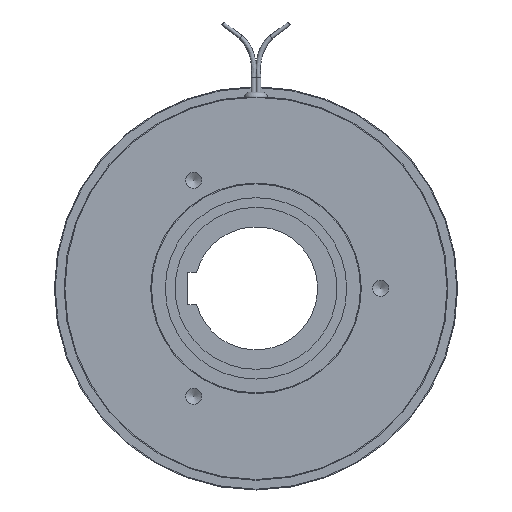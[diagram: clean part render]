
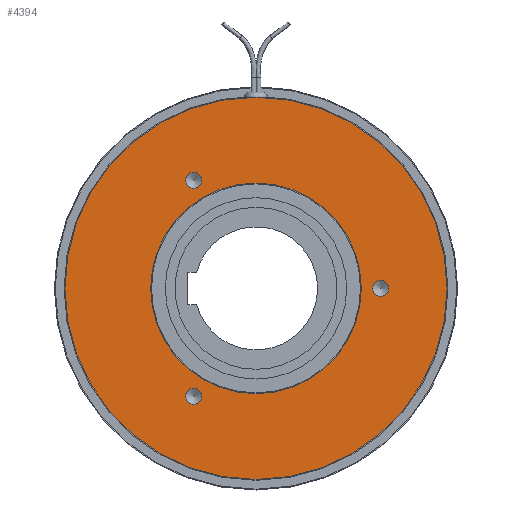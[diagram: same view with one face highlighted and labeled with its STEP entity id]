
A CAD part, left-side view. The second image highlights one B-rep face of the part: STEP entity #4394.
In plain terms, the highlighted planar face has unit normal (-1, 0, 0).
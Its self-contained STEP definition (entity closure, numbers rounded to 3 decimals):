
#235=FACE_BOUND('',#721,.T.);
#236=FACE_BOUND('',#722,.T.);
#237=FACE_BOUND('',#723,.T.);
#238=FACE_BOUND('',#724,.T.);
#300=PLANE('',#4846);
#442=FACE_OUTER_BOUND('',#720,.T.);
#720=EDGE_LOOP('',(#3426,#3427,#3428));
#721=EDGE_LOOP('',(#3429,#3430));
#722=EDGE_LOOP('',(#3431,#3432));
#723=EDGE_LOOP('',(#3433,#3434));
#724=EDGE_LOOP('',(#3435,#3436));
#1467=CIRCLE('',#4839,59.);
#1468=CIRCLE('',#4840,59.);
#1469=CIRCLE('',#4842,32.5);
#1472=CIRCLE('',#4845,32.5);
#1473=CIRCLE('',#4847,59.);
#1474=CIRCLE('',#4848,2.459);
#1475=CIRCLE('',#4849,2.459);
#1476=CIRCLE('',#4850,2.459);
#1477=CIRCLE('',#4851,2.459);
#1478=CIRCLE('',#4852,2.459);
#1479=CIRCLE('',#4853,2.459);
#1926=VERTEX_POINT('',#7535);
#1927=VERTEX_POINT('',#7537);
#1928=VERTEX_POINT('',#7539);
#1932=VERTEX_POINT('',#7566);
#1933=VERTEX_POINT('',#7567);
#1936=VERTEX_POINT('',#7577);
#1937=VERTEX_POINT('',#7578);
#1938=VERTEX_POINT('',#7581);
#1939=VERTEX_POINT('',#7582);
#1940=VERTEX_POINT('',#7585);
#1941=VERTEX_POINT('',#7586);
#2475=EDGE_CURVE('',#1927,#1926,#1467,.T.);
#2476=EDGE_CURVE('',#1928,#1927,#1468,.T.);
#2481=EDGE_CURVE('',#1932,#1933,#1469,.T.);
#2485=EDGE_CURVE('',#1933,#1932,#1472,.T.);
#2486=EDGE_CURVE('',#1926,#1928,#1473,.T.);
#2487=EDGE_CURVE('',#1936,#1937,#1474,.T.);
#2488=EDGE_CURVE('',#1937,#1936,#1475,.T.);
#2489=EDGE_CURVE('',#1938,#1939,#1476,.T.);
#2490=EDGE_CURVE('',#1939,#1938,#1477,.T.);
#2491=EDGE_CURVE('',#1940,#1941,#1478,.T.);
#2492=EDGE_CURVE('',#1941,#1940,#1479,.T.);
#3426=ORIENTED_EDGE('',*,*,#2475,.T.);
#3427=ORIENTED_EDGE('',*,*,#2486,.T.);
#3428=ORIENTED_EDGE('',*,*,#2476,.T.);
#3429=ORIENTED_EDGE('',*,*,#2487,.T.);
#3430=ORIENTED_EDGE('',*,*,#2488,.T.);
#3431=ORIENTED_EDGE('',*,*,#2489,.T.);
#3432=ORIENTED_EDGE('',*,*,#2490,.T.);
#3433=ORIENTED_EDGE('',*,*,#2491,.T.);
#3434=ORIENTED_EDGE('',*,*,#2492,.T.);
#3435=ORIENTED_EDGE('',*,*,#2481,.F.);
#3436=ORIENTED_EDGE('',*,*,#2485,.F.);
#4394=ADVANCED_FACE('',(#442,#235,#236,#237,#238),#300,.T.);
#4839=AXIS2_PLACEMENT_3D('',#7538,#5916,#5917);
#4840=AXIS2_PLACEMENT_3D('',#7540,#5918,#5919);
#4842=AXIS2_PLACEMENT_3D('',#7568,#5925,#5926);
#4845=AXIS2_PLACEMENT_3D('',#7574,#5932,#5933);
#4846=AXIS2_PLACEMENT_3D('',#7575,#5934,#5935);
#4847=AXIS2_PLACEMENT_3D('',#7576,#5936,#5937);
#4848=AXIS2_PLACEMENT_3D('',#7579,#5938,#5939);
#4849=AXIS2_PLACEMENT_3D('',#7580,#5940,#5941);
#4850=AXIS2_PLACEMENT_3D('',#7583,#5942,#5943);
#4851=AXIS2_PLACEMENT_3D('',#7584,#5944,#5945);
#4852=AXIS2_PLACEMENT_3D('',#7587,#5946,#5947);
#4853=AXIS2_PLACEMENT_3D('',#7588,#5948,#5949);
#5916=DIRECTION('center_axis',(-1.,0.,0.));
#5917=DIRECTION('ref_axis',(0.,1.,0.));
#5918=DIRECTION('center_axis',(-1.,0.,0.));
#5919=DIRECTION('ref_axis',(0.,1.,0.));
#5925=DIRECTION('center_axis',(-1.,0.,0.));
#5926=DIRECTION('ref_axis',(0.,1.,0.));
#5932=DIRECTION('center_axis',(-1.,0.,0.));
#5933=DIRECTION('ref_axis',(0.,1.,0.));
#5934=DIRECTION('center_axis',(-1.,0.,0.));
#5935=DIRECTION('ref_axis',(0.,0.,
1.));
#5936=DIRECTION('center_axis',(-1.,0.,0.));
#5937=DIRECTION('ref_axis',(0.,1.,0.));
#5938=DIRECTION('center_axis',(1.,0.,0.));
#5939=DIRECTION('ref_axis',(0.,0.,
1.));
#5940=DIRECTION('center_axis',(1.,0.,0.));
#5941=DIRECTION('ref_axis',(0.,0.,
1.));
#5942=DIRECTION('center_axis',(1.,0.,0.));
#5943=DIRECTION('ref_axis',(0.,0.,
1.));
#5944=DIRECTION('center_axis',(1.,0.,0.));
#5945=DIRECTION('ref_axis',(0.,0.,
1.));
#5946=DIRECTION('center_axis',(1.,0.,0.));
#5947=DIRECTION('ref_axis',(0.,0.,
1.));
#5948=DIRECTION('center_axis',(1.,0.,0.));
#5949=DIRECTION('ref_axis',(0.,0.,
1.));
#7535=CARTESIAN_POINT('',(-17.9,-59.,0.));
#7537=CARTESIAN_POINT('',(-17.9,59.,0.));
#7538=CARTESIAN_POINT('Origin',(-17.9,0.,0.));
#7539=CARTESIAN_POINT('',(-17.9,0.,59.));
#7540=CARTESIAN_POINT('Origin',(-17.9,0.,0.));
#7566=CARTESIAN_POINT('',(-17.9,32.5,0.));
#7567=CARTESIAN_POINT('',(-17.9,-32.5,0.));
#7568=CARTESIAN_POINT('Origin',(-17.9,0.,0.));
#7574=CARTESIAN_POINT('Origin',(-17.9,0.,0.));
#7575=CARTESIAN_POINT('Origin',(-17.9,45.75,0.));
#7576=CARTESIAN_POINT('Origin',(-17.9,0.,0.));
#7577=CARTESIAN_POINT('',(-17.9,19.25,35.8));
#7578=CARTESIAN_POINT('',(-17.9,19.25,30.883));
#7579=CARTESIAN_POINT('Origin',(-17.9,19.25,33.342));
#7580=CARTESIAN_POINT('Origin',(-17.9,19.25,33.342));
#7581=CARTESIAN_POINT('',(-17.9,-38.5,2.459));
#7582=CARTESIAN_POINT('',(-17.9,-38.5,-2.458));
#7583=CARTESIAN_POINT('Origin',(-17.9,-38.5,0.));
#7584=CARTESIAN_POINT('Origin',(-17.9,-38.5,0.));
#7585=CARTESIAN_POINT('',(-17.9,19.25,-30.883));
#7586=CARTESIAN_POINT('',(-17.9,19.25,-35.8));
#7587=CARTESIAN_POINT('Origin',(-17.9,19.25,-33.342));
#7588=CARTESIAN_POINT('Origin',(-17.9,19.25,-33.342));
